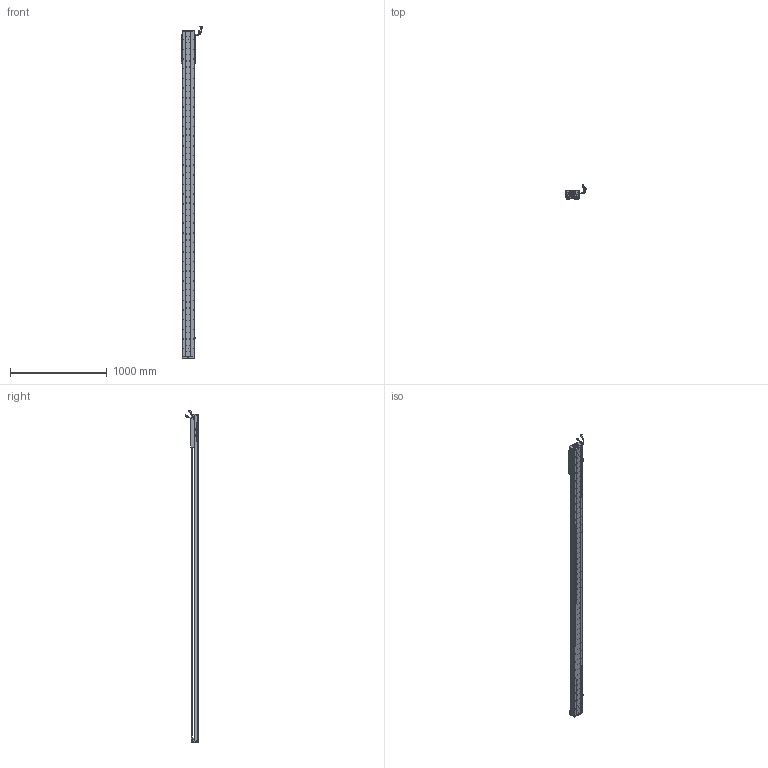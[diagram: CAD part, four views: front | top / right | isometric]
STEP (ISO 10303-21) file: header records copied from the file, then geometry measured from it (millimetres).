
FILE_DESCRIPTION (( 'STEP AP203' ), '1' );
FILE_NAME ('Z4-RY120D-1-L500-B-K.SLDASM_3000.step', '2021-05-17T06:12:23', ( '盈信电脑' ), ( '东莞市道滘镇水果街19号' ), 'SwSTEP 2.0', 'SolidWorks 2016', '' );
FILE_SCHEMA (( 'CONFIG_CONTROL_DESIGN' ));
Length unit declared in the file: millimetre
Products named in the file (37): Z4-RY120D-1-L500-B-K.SLDASM_3000; LABEL-Part-1; SCREW-M1.6; SCREW-M1.7-1; Z-RY120D詩湍奻揤裔; RY100FB-遵嫖萇覜茼え; 榋妏寠巭燃_暯_M2_2; SCALE-Part-1; SCALE-Part-2; Z4-RY120-L500詩湍100mm遵_3000; HOLDER0; PBU_SHEET; SEAL-Part-1; COVER; SEAL; HARNESS-Part-2; 140雄赽晤鎢ん堤盄; 080黍杅芛假蚾釱21遴; HARNESS-Part-1; Z4-RY120铝滑块（21款）; PSLH080_PSLF2; HARNESS; SCREW-M1.6-2; 覜茼ん672; Z-RY120D詩湍狟揤裔; SHIELDPLATE; SCALE; 120-Z-臏賑輸盄裔(21遴); 672嫖萇羲壽假蚾釱; Z4-RY120-500-倰第菁釱_3000; SCREW-M1.6-3; Z-120詩湍傷裔啣; SCREW-M1.7; COVER-Part-1; 140蚥薯蝶輸; LABEL; SCREW-M1.6-1
Assembly tree (43 placements, depth 4):
  Z4-RY120D-1-L500-B-K.SLDASM_3000
    Z4-RY120-500-倰第菁釱_3000
    覜茼ん672  x3
    672嫖萇羲壽假蚾釱  x2
    Z4-RY120铝滑块（21款）
    PSLH080_PSLF2
      SCALE
        SCALE-Part-1
        SCALE-Part-2
      HARNESS
        HARNESS-Part-1
        HARNESS-Part-2
      LABEL
        LABEL-Part-1
      COVER
        COVER-Part-1
      SEAL
        SEAL-Part-1
      榋妏寠巭燃_暯_M2_2
      SHIELDPLATE
      SCREW-M1.7
      SCREW-M1.7-1
      PBU_SHEET
      SCREW-M1.6
      SCREW-M1.6-1
      SCREW-M1.6-2
      SCREW-M1.6-3
      HOLDER0
    080黍杅芛假蚾釱21遴
    120-Z-臏賑輸盄裔(21遴)
    140雄赽晤鎢ん堤盄
    140蚥薯蝶輸  x2
    RY100FB-遵嫖萇覜茼え
    Z-120詩湍傷裔啣  x2
    Z-RY120D詩湍奻揤裔  x2
    Z-RY120D詩湍狟揤裔  x2
    Z4-RY120-L500詩湍100mm遵_3000
Bounding box: 222.83 x 140.94 x 3438.99 mm (x, y, z)
Volume: 7994399.4 mm3; surface area: 2785645.3 mm2
Topology: 38 solids, 38 shells, 4105 faces, 11872 edges, 7484 vertices
Faces by surface type: cylinder 2240, plane 1305, cone 438, torus 69, bspline 53
Entity records: 142149 total; most frequent: CARTESIAN_POINT 44910, ORIENTED_EDGE 20392, DIRECTION 18378, EDGE_CURVE 10196, AXIS2_PLACEMENT_3D 6826, VERTEX_POINT 6604, VECTOR 4726, LINE 4726
